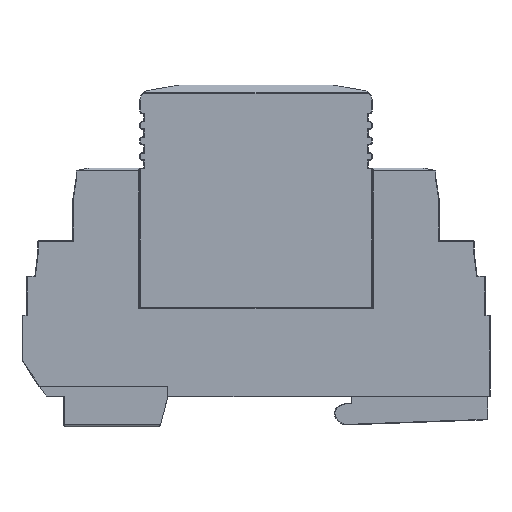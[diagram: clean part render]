
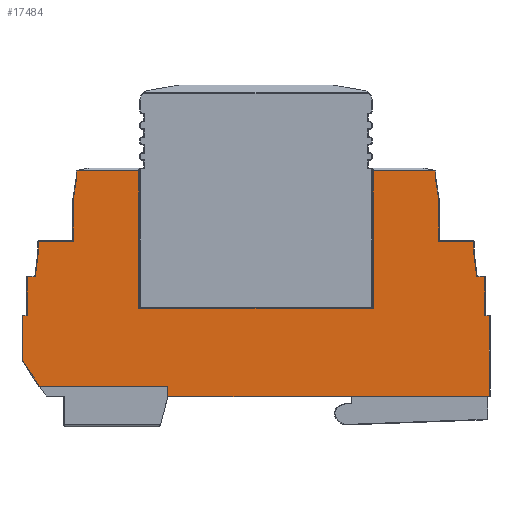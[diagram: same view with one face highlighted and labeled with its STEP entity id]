
A CAD part, front view. The second image highlights one B-rep face of the part: STEP entity #17484.
In plain terms, the highlighted planar face has unit normal (0, -1, 0).
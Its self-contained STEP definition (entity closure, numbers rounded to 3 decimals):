
#275=PLANE('',#18706);
#1031=FACE_OUTER_BOUND('',#2033,.T.);
#2033=EDGE_LOOP('',(#12747,#12748,#12749,#12750,#12751,#12752,#12753,#12754,
#12755,#12756,#12757,#12758,#12759,#12760,#12761,#12762,#12763,#12764,#12765,
#12766,#12767,#12768,#12769,#12770,#12771,#12772,#12773,#12774,#12775));
#3912=LINE('',#26333,#5905);
#3915=LINE('',#26348,#5908);
#3918=LINE('',#26365,#5911);
#3921=LINE('',#26375,#5914);
#3934=LINE('',#26417,#5927);
#3972=LINE('',#26495,#5965);
#3973=LINE('',#26497,#5966);
#3974=LINE('',#26499,#5967);
#3975=LINE('',#26501,#5968);
#3976=LINE('',#26503,#5969);
#3977=LINE('',#26505,#5970);
#3978=LINE('',#26507,#5971);
#3979=LINE('',#26509,#5972);
#3980=LINE('',#26511,#5973);
#3981=LINE('',#26513,#5974);
#3982=LINE('',#26515,#5975);
#3983=LINE('',#26517,#5976);
#3984=LINE('',#26519,#5977);
#3985=LINE('',#26521,#5978);
#3986=LINE('',#26523,#5979);
#3987=LINE('',#26525,#5980);
#3988=LINE('',#26527,#5981);
#3989=LINE('',#26529,#5982);
#3990=LINE('',#26531,#5983);
#3991=LINE('',#26533,#5984);
#3992=LINE('',#26535,#5985);
#3993=LINE('',#26537,#5986);
#3994=LINE('',#26539,#5987);
#3995=LINE('',#26540,#5988);
#5905=VECTOR('',#20919,10.);
#5908=VECTOR('',#20934,10.);
#5911=VECTOR('',#20953,10.);
#5914=VECTOR('',#20962,10.);
#5927=VECTOR('',#21009,10.);
#5965=VECTOR('',#21079,10.);
#5966=VECTOR('',#21080,10.);
#5967=VECTOR('',#21081,10.);
#5968=VECTOR('',#21082,10.);
#5969=VECTOR('',#21083,10.);
#5970=VECTOR('',#21084,10.);
#5971=VECTOR('',#21085,10.);
#5972=VECTOR('',#21086,10.);
#5973=VECTOR('',#21087,10.);
#5974=VECTOR('',#21088,10.);
#5975=VECTOR('',#21089,10.);
#5976=VECTOR('',#21090,10.);
#5977=VECTOR('',#21091,10.);
#5978=VECTOR('',#21092,10.);
#5979=VECTOR('',#21093,10.);
#5980=VECTOR('',#21094,10.);
#5981=VECTOR('',#21095,10.);
#5982=VECTOR('',#21096,10.);
#5983=VECTOR('',#21097,10.);
#5984=VECTOR('',#21098,10.);
#5985=VECTOR('',#21099,10.);
#5986=VECTOR('',#21100,10.);
#5987=VECTOR('',#21101,10.);
#5988=VECTOR('',#21102,10.);
#7879=VERTEX_POINT('',#26326);
#7881=VERTEX_POINT('',#26331);
#7887=VERTEX_POINT('',#26347);
#7892=VERTEX_POINT('',#26360);
#7893=VERTEX_POINT('',#26364);
#7897=VERTEX_POINT('',#26374);
#7933=VERTEX_POINT('',#26494);
#7934=VERTEX_POINT('',#26496);
#7935=VERTEX_POINT('',#26498);
#7936=VERTEX_POINT('',#26500);
#7937=VERTEX_POINT('',#26502);
#7938=VERTEX_POINT('',#26504);
#7939=VERTEX_POINT('',#26506);
#7940=VERTEX_POINT('',#26508);
#7941=VERTEX_POINT('',#26510);
#7942=VERTEX_POINT('',#26512);
#7943=VERTEX_POINT('',#26514);
#7944=VERTEX_POINT('',#26516);
#7945=VERTEX_POINT('',#26518);
#7946=VERTEX_POINT('',#26520);
#7947=VERTEX_POINT('',#26522);
#7948=VERTEX_POINT('',#26524);
#7949=VERTEX_POINT('',#26526);
#7950=VERTEX_POINT('',#26528);
#7951=VERTEX_POINT('',#26530);
#7952=VERTEX_POINT('',#26532);
#7953=VERTEX_POINT('',#26534);
#7954=VERTEX_POINT('',#26536);
#7955=VERTEX_POINT('',#26538);
#9657=EDGE_CURVE('',#7881,#7879,#3912,.T.);
#9664=EDGE_CURVE('',#7879,#7887,#3915,.T.);
#9672=EDGE_CURVE('',#7893,#7892,#3918,.T.);
#9677=EDGE_CURVE('',#7892,#7897,#3921,.T.);
#9699=EDGE_CURVE('',#7887,#7893,#3934,.T.);
#9741=EDGE_CURVE('',#7933,#7881,#3972,.T.);
#9742=EDGE_CURVE('',#7934,#7933,#3973,.T.);
#9743=EDGE_CURVE('',#7935,#7934,#3974,.T.);
#9744=EDGE_CURVE('',#7936,#7935,#3975,.T.);
#9745=EDGE_CURVE('',#7937,#7936,#3976,.T.);
#9746=EDGE_CURVE('',#7938,#7937,#3977,.T.);
#9747=EDGE_CURVE('',#7939,#7938,#3978,.T.);
#9748=EDGE_CURVE('',#7940,#7939,#3979,.T.);
#9749=EDGE_CURVE('',#7941,#7940,#3980,.T.);
#9750=EDGE_CURVE('',#7942,#7941,#3981,.T.);
#9751=EDGE_CURVE('',#7943,#7942,#3982,.T.);
#9752=EDGE_CURVE('',#7943,#7944,#3983,.T.);
#9753=EDGE_CURVE('',#7944,#7945,#3984,.T.);
#9754=EDGE_CURVE('',#7946,#7945,#3985,.T.);
#9755=EDGE_CURVE('',#7947,#7946,#3986,.T.);
#9756=EDGE_CURVE('',#7948,#7947,#3987,.T.);
#9757=EDGE_CURVE('',#7949,#7948,#3988,.T.);
#9758=EDGE_CURVE('',#7950,#7949,#3989,.T.);
#9759=EDGE_CURVE('',#7951,#7950,#3990,.T.);
#9760=EDGE_CURVE('',#7952,#7951,#3991,.T.);
#9761=EDGE_CURVE('',#7953,#7952,#3992,.T.);
#9762=EDGE_CURVE('',#7954,#7953,#3993,.T.);
#9763=EDGE_CURVE('',#7955,#7954,#3994,.T.);
#9764=EDGE_CURVE('',#7897,#7955,#3995,.T.);
#12747=ORIENTED_EDGE('',*,*,#9677,.F.);
#12748=ORIENTED_EDGE('',*,*,#9672,.F.);
#12749=ORIENTED_EDGE('',*,*,#9699,.F.);
#12750=ORIENTED_EDGE('',*,*,#9664,.F.);
#12751=ORIENTED_EDGE('',*,*,#9657,.F.);
#12752=ORIENTED_EDGE('',*,*,#9741,.F.);
#12753=ORIENTED_EDGE('',*,*,#9742,.F.);
#12754=ORIENTED_EDGE('',*,*,#9743,.F.);
#12755=ORIENTED_EDGE('',*,*,#9744,.F.);
#12756=ORIENTED_EDGE('',*,*,#9745,.F.);
#12757=ORIENTED_EDGE('',*,*,#9746,.F.);
#12758=ORIENTED_EDGE('',*,*,#9747,.F.);
#12759=ORIENTED_EDGE('',*,*,#9748,.F.);
#12760=ORIENTED_EDGE('',*,*,#9749,.F.);
#12761=ORIENTED_EDGE('',*,*,#9750,.F.);
#12762=ORIENTED_EDGE('',*,*,#9751,.F.);
#12763=ORIENTED_EDGE('',*,*,#9752,.T.);
#12764=ORIENTED_EDGE('',*,*,#9753,.T.);
#12765=ORIENTED_EDGE('',*,*,#9754,.F.);
#12766=ORIENTED_EDGE('',*,*,#9755,.F.);
#12767=ORIENTED_EDGE('',*,*,#9756,.F.);
#12768=ORIENTED_EDGE('',*,*,#9757,.F.);
#12769=ORIENTED_EDGE('',*,*,#9758,.F.);
#12770=ORIENTED_EDGE('',*,*,#9759,.F.);
#12771=ORIENTED_EDGE('',*,*,#9760,.F.);
#12772=ORIENTED_EDGE('',*,*,#9761,.F.);
#12773=ORIENTED_EDGE('',*,*,#9762,.F.);
#12774=ORIENTED_EDGE('',*,*,#9763,.F.);
#12775=ORIENTED_EDGE('',*,*,#9764,.F.);
#17484=ADVANCED_FACE('',(#1031),#275,.T.);
#18706=AXIS2_PLACEMENT_3D('',#26493,#21077,#21078);
#20919=DIRECTION('',(1.,0.,0.));
#20934=DIRECTION('',(0.,0.,-1.));
#20953=DIRECTION('',(0.,0.,1.));
#20962=DIRECTION('',(1.,0.,0.));
#21009=DIRECTION('',(1.,0.,0.));
#21077=DIRECTION('center_axis',(0.,-1.,0.));
#21078=DIRECTION('ref_axis',(1.,0.,0.));
#21079=DIRECTION('',(0.,0.,1.));
#21080=DIRECTION('',(0.154,0.,0.988));
#21081=DIRECTION('',(0.,0.,1.));
#21082=DIRECTION('',(1.,0.,0.));
#21083=DIRECTION('',(0.,0.,1.));
#21084=DIRECTION('',(0.124,0.,0.992));
#21085=DIRECTION('',(1.,0.,0.));
#21086=DIRECTION('',(0.,0.,1.));
#21087=DIRECTION('',(1.,0.,0.));
#21088=DIRECTION('',(0.,0.,1.));
#21089=DIRECTION('',(-0.553,0.,0.833));
#21090=DIRECTION('',(1.,0.,0.));
#21091=DIRECTION('',(0.,0.,-1.));
#21092=DIRECTION('',(-1.,0.,0.));
#21093=DIRECTION('',(0.,0.,-1.));
#21094=DIRECTION('',(1.,0.,0.));
#21095=DIRECTION('',(0.,0.,-1.));
#21096=DIRECTION('',(1.,0.,0.));
#21097=DIRECTION('',(0.124,0.,-0.992));
#21098=DIRECTION('',(0.,0.,-1.));
#21099=DIRECTION('',(1.,0.,0.));
#21100=DIRECTION('',(0.,0.,-1.));
#21101=DIRECTION('',(0.154,0.,-0.988));
#21102=DIRECTION('',(0.,0.,-1.));
#26326=CARTESIAN_POINT('',(-22.725,-8.75,40.609));
#26331=CARTESIAN_POINT('',(-34.688,-8.75,40.609));
#26333=CARTESIAN_POINT('',(-33.931,-8.75,40.609));
#26347=CARTESIAN_POINT('',(-22.725,-8.75,14.15));
#26348=CARTESIAN_POINT('',(-22.725,-8.75,31.025));
#26360=CARTESIAN_POINT('',(22.475,-8.75,40.609));
#26364=CARTESIAN_POINT('',(22.475,-8.75,14.15));
#26365=CARTESIAN_POINT('',(22.475,-8.75,18.575));
#26374=CARTESIAN_POINT('',(34.438,-8.75,40.609));
#26375=CARTESIAN_POINT('',(-33.931,-8.75,40.609));
#26417=CARTESIAN_POINT('',(-22.663,-8.75,14.15));
#26493=CARTESIAN_POINT('Origin',(-45.2,-8.75,20.9));
#26494=CARTESIAN_POINT('',(-34.688,-8.75,39.143));
#26495=CARTESIAN_POINT('',(-34.688,-8.75,31.025));
#26496=CARTESIAN_POINT('',(-35.375,-8.75,34.742));
#26497=CARTESIAN_POINT('',(-36.204,-8.75,29.433));
#26498=CARTESIAN_POINT('',(-35.375,-8.75,27.05));
#26499=CARTESIAN_POINT('',(-35.375,-8.75,27.825));
#26500=CARTESIAN_POINT('',(-42.025,-8.75,27.05));
#26501=CARTESIAN_POINT('',(-22.663,-8.75,27.05));
#26502=CARTESIAN_POINT('',(-42.025,-8.75,25.144));
#26503=CARTESIAN_POINT('',(-42.025,-8.75,24.525));
#26504=CARTESIAN_POINT('',(-42.637,-8.75,20.25));
#26505=CARTESIAN_POINT('',(-42.311,-8.75,22.856));
#26506=CARTESIAN_POINT('',(-44.175,-8.75,20.25));
#26507=CARTESIAN_POINT('',(-43.963,-8.75,20.25));
#26508=CARTESIAN_POINT('',(-44.175,-8.75,12.75));
#26509=CARTESIAN_POINT('',(-44.175,-8.75,20.625));
#26510=CARTESIAN_POINT('',(-45.1,-8.75,12.75));
#26511=CARTESIAN_POINT('',(-44.738,-8.75,12.75));
#26512=CARTESIAN_POINT('',(-45.1,-8.75,4.08));
#26513=CARTESIAN_POINT('',(-45.1,-8.75,20.9));
#26514=CARTESIAN_POINT('',(-41.83,-8.75,-0.85));
#26515=CARTESIAN_POINT('',(-48.185,-8.75,8.731));
#26516=CARTESIAN_POINT('',(-17.1,-8.75,-0.85));
#26517=CARTESIAN_POINT('',(-45.2,-8.75,-0.85));
#26518=CARTESIAN_POINT('',(-17.1,-8.75,-2.85));
#26519=CARTESIAN_POINT('',(-17.1,-8.75,10.025));
#26520=CARTESIAN_POINT('',(44.85,-8.75,-2.85));
#26521=CARTESIAN_POINT('',(44.95,-8.75,-2.85));
#26522=CARTESIAN_POINT('',(44.85,-8.75,12.75));
#26523=CARTESIAN_POINT('',(44.85,-8.75,20.9));
#26524=CARTESIAN_POINT('',(43.925,-8.75,12.75));
#26525=CARTESIAN_POINT('',(-0.125,-8.75,12.75));
#26526=CARTESIAN_POINT('',(43.925,-8.75,20.25));
#26527=CARTESIAN_POINT('',(43.925,-8.75,16.875));
#26528=CARTESIAN_POINT('',(42.387,-8.75,20.25));
#26529=CARTESIAN_POINT('',(-0.587,-8.75,20.25));
#26530=CARTESIAN_POINT('',(41.775,-8.75,25.144));
#26531=CARTESIAN_POINT('',(41.668,-8.75,26.004));
#26532=CARTESIAN_POINT('',(41.775,-8.75,27.05));
#26533=CARTESIAN_POINT('',(41.775,-8.75,23.025));
#26534=CARTESIAN_POINT('',(35.125,-8.75,27.05));
#26535=CARTESIAN_POINT('',(-22.663,-8.75,27.05));
#26536=CARTESIAN_POINT('',(35.125,-8.75,34.742));
#26537=CARTESIAN_POINT('',(35.125,-8.75,24.525));
#26538=CARTESIAN_POINT('',(34.438,-8.75,39.142));
#26539=CARTESIAN_POINT('',(35.224,-8.75,34.108));
#26540=CARTESIAN_POINT('',(34.438,-8.75,30.025));
